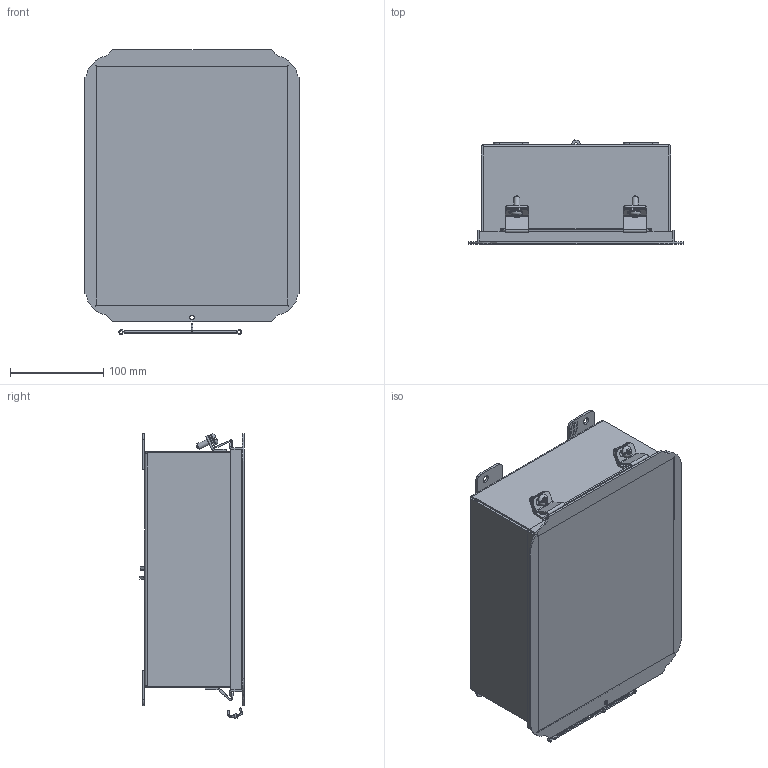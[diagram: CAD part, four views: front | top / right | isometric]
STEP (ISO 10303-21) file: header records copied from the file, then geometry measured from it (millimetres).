
FILE_DESCRIPTION(/* description */ ('Unknown'),/* implementation_level */ '2;1');
FILE_NAME(/* name */ '1414I',/* time_stamp */ '2018-09-07T10:33:16-04:00',/* author */ ('Unknown'),/* organization */ ('Unknown'),/* preprocessor_version */ 'ST-DEVELOPER v16.7',/* originating_system */ 'DEX',/* authorisation */ $);
FILE_SCHEMA (('AUTOMOTIVE_DESIGN {1 0 10303 214 3 1 1}'));
Length unit declared in the file: millimetre
Products named in the file (25): 1414I; COM42866; COM40229; COM40176; STD26152; COM50850; COM40705; COM40177; QLB20277; KIT95026; NTS17050; NTS16500; LAB30005; scs18968; WAF250205; WAL251505; COM52405; std26020; BUL10020; COM70219_oa_0; CLP06604; CCH03710; scs19420
Assembly tree (35 placements, depth 3):
  1414I
    COM42866
    COM40229  x2
    COM40176  x2
    STD26152  x5
    COM50850  x4
    COM40705
    COM40177  x2
    QLB20277
    KIT95026
      NTS17050
      NTS16500
      LAB30005
      scs18968
      WAF250205
      WAL251505
    COM52405
      std26020
      COM52405
      COM52405
    BUL10020
    COM70219_oa_0
    CLP06604
    CCH03710
    scs19420  x2
Bounding box: 230.23 x 111.67 x 305.87 mm (x, y, z)
Volume: 670947.7 mm3; surface area: 740577.4 mm2
Topology: 31 solids, 32 shells, 986 faces, 2535 edges, 1636 vertices
Faces by surface type: plane 618, cylinder 252, bspline 50, cone 38, torus 28
Full cylindrical faces by diameter (mm): 1.702 x3, 3.962 x2, 3.967 x7, 4.699 x1, 4.775 x1, 5.41 x2, 5.461 x1, 6.35 x3, 6.731 x4, 7.925 x4, 9.525 x6, 9.779 x1, 12.192 x2, 12.7 x1
Entity records: 25418 total; most frequent: CARTESIAN_POINT 7300, ORIENTED_EDGE 3656, DIRECTION 3521, EDGE_CURVE 1828, VERTEX_POINT 1209, AXIS2_PLACEMENT_3D 1175, LINE 1171, VECTOR 1171
